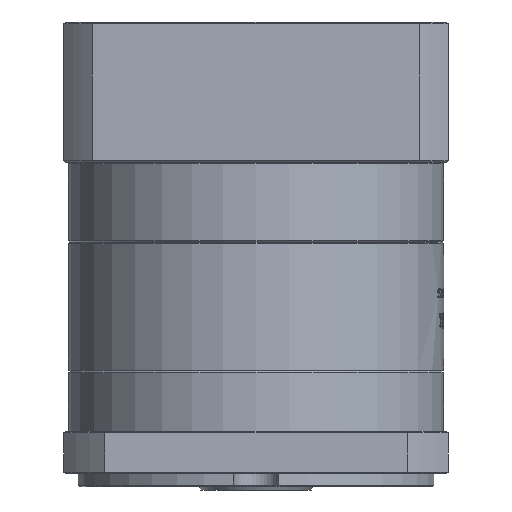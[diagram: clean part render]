
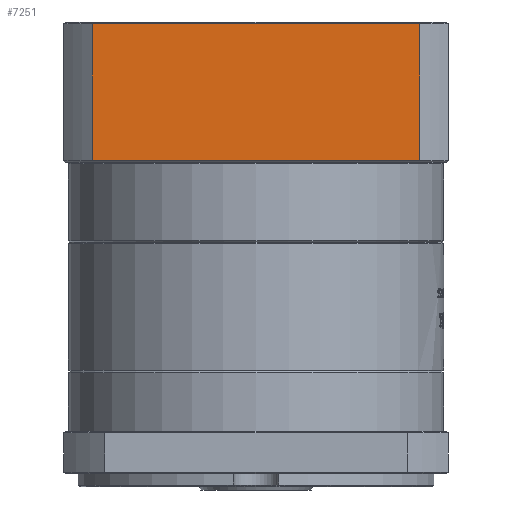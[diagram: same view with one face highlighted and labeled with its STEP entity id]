
A CAD part, front view. The second image highlights one B-rep face of the part: STEP entity #7251.
In plain terms, the highlighted planar face has unit normal (0, -1, 0).
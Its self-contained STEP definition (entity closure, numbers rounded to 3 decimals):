
#5344 = DIRECTION ( 'NONE',  ( 1., 0., 0. ) ) ;
#6883 = ORIENTED_EDGE ( 'NONE', *, *, #7113, .F. ) ;
#7113 = EDGE_CURVE ( 'NONE', #93189, #65490, #34130, .T. ) ;
#7251 = ADVANCED_FACE ( 'NONE', ( #26093 ), #80669, .F. ) ;
#10125 = DIRECTION ( 'NONE',  ( 0., 0., 1. ) ) ;
#13187 = EDGE_CURVE ( 'NONE', #81886, #65490, #25387, .T. ) ;
#15081 = VECTOR ( 'NONE', #10125, 1000. ) ;
#16325 = CARTESIAN_POINT ( 'NONE',  ( 124.463, 42.778, -230.065 ) ) ;
#16594 = CARTESIAN_POINT ( 'NONE',  ( 133.211, 42.778, -8.17 ) ) ;
#20113 = EDGE_CURVE ( 'NONE', #81886, #42600, #74673, .T. ) ;
#22843 = DIRECTION ( 'NONE',  ( -1., 0., 0. ) ) ;
#24808 = DIRECTION ( 'NONE',  ( 0., 0., -1. ) ) ;
#25387 = LINE ( 'NONE', #16594, #32128 ) ;
#26093 = FACE_OUTER_BOUND ( 'NONE', #50938, .T. ) ;
#29206 = ORIENTED_EDGE ( 'NONE', *, *, #13187, .T. ) ;
#32128 = VECTOR ( 'NONE', #84400, 1000. ) ;
#34130 = LINE ( 'NONE', #16325, #68511 ) ;
#42600 = VERTEX_POINT ( 'NONE', #47778 ) ;
#45381 = CARTESIAN_POINT ( 'NONE',  ( 133.211, 42.778, 33.83 ) ) ;
#47778 = CARTESIAN_POINT ( 'NONE',  ( 23.959, 42.778, 33.83 ) ) ;
#49111 = AXIS2_PLACEMENT_3D ( 'NONE', #55466, #107725, #22843 ) ;
#50471 = LINE ( 'NONE', #45381, #108812 ) ;
#50938 = EDGE_LOOP ( 'NONE', ( #29206, #6883, #87339, #105700 ) ) ;
#55466 = CARTESIAN_POINT ( 'NONE',  ( 133.211, 42.778, 34.33 ) ) ;
#59335 = CARTESIAN_POINT ( 'NONE',  ( 23.959, 42.778, 34.33 ) ) ;
#59730 = EDGE_CURVE ( 'NONE', #42600, #93189, #50471, .T. ) ;
#65490 = VERTEX_POINT ( 'NONE', #95373 ) ;
#68511 = VECTOR ( 'NONE', #24808, 1000. ) ;
#74673 = LINE ( 'NONE', #59335, #15081 ) ;
#80669 = PLANE ( 'NONE',  #49111 ) ;
#81886 = VERTEX_POINT ( 'NONE', #91997 ) ;
#84400 = DIRECTION ( 'NONE',  ( 1., 0., 0. ) ) ;
#87339 = ORIENTED_EDGE ( 'NONE', *, *, #59730, .F. ) ;
#91997 = CARTESIAN_POINT ( 'NONE',  ( 23.959, 42.778, -8.17 ) ) ;
#93189 = VERTEX_POINT ( 'NONE', #100037 ) ;
#95373 = CARTESIAN_POINT ( 'NONE',  ( 124.463, 42.778, -8.17 ) ) ;
#100037 = CARTESIAN_POINT ( 'NONE',  ( 124.463, 42.778, 33.83 ) ) ;
#105700 = ORIENTED_EDGE ( 'NONE', *, *, #20113, .F. ) ;
#107725 = DIRECTION ( 'NONE',  ( 0., 1., 0. ) ) ;
#108812 = VECTOR ( 'NONE', #5344, 1000. ) ;
